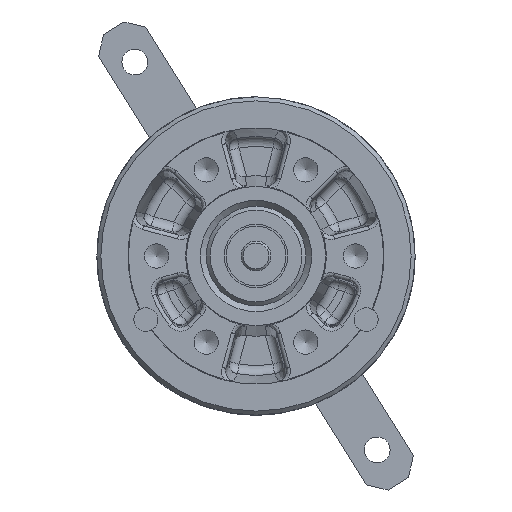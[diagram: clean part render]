
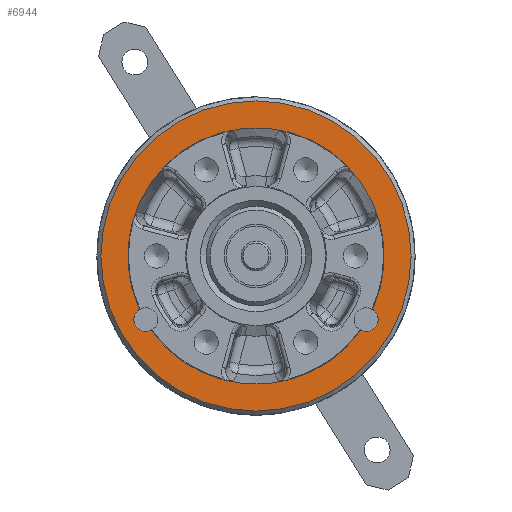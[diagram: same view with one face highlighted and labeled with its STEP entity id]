
A CAD part, left-side view. The second image highlights one B-rep face of the part: STEP entity #6944.
In plain terms, the highlighted planar face has unit normal (-1, 0, 0).
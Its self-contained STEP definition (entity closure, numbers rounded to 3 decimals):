
#359=FACE_BOUND('',#1322,.T.);
#541=PLANE('',#7714);
#905=FACE_OUTER_BOUND('',#1321,.T.);
#1321=EDGE_LOOP('',(#6021));
#1322=EDGE_LOOP('',(#6022,#6023,#6024,#6025));
#2369=CIRCLE('',#7381,0.6);
#2385=CIRCLE('',#7398,6.45);
#2387=CIRCLE('',#7401,0.6);
#2394=CIRCLE('',#7410,7.8);
#2553=CIRCLE('',#7715,6.45);
#2960=VERTEX_POINT('',#11231);
#2961=VERTEX_POINT('',#11236);
#2983=VERTEX_POINT('',#11517);
#2986=VERTEX_POINT('',#11527);
#2991=VERTEX_POINT('',#11546);
#3779=EDGE_CURVE('',#2961,#2960,#2369,.T.);
#3804=EDGE_CURVE('',#2960,#2983,#2385,.T.);
#3807=EDGE_CURVE('',#2983,#2986,#2387,.T.);
#3816=EDGE_CURVE('',#2991,#2991,#2394,.T.);
#4140=EDGE_CURVE('',#2986,#2961,#2553,.T.);
#6021=ORIENTED_EDGE('',*,*,#3816,.T.);
#6022=ORIENTED_EDGE('',*,*,#3779,.T.);
#6023=ORIENTED_EDGE('',*,*,#3804,.T.);
#6024=ORIENTED_EDGE('',*,*,#3807,.T.);
#6025=ORIENTED_EDGE('',*,*,#4140,.T.);
#6944=ADVANCED_FACE('',(#905,#359),#541,.T.);
#7381=AXIS2_PLACEMENT_3D('',#11237,#8892,#8893);
#7398=AXIS2_PLACEMENT_3D('',#11522,#8927,#8928);
#7401=AXIS2_PLACEMENT_3D('',#11532,#8933,#8934);
#7410=AXIS2_PLACEMENT_3D('',#11548,#8953,#8954);
#7714=AXIS2_PLACEMENT_3D('',#14086,#9628,#9629);
#7715=AXIS2_PLACEMENT_3D('',#14087,#9630,#9631);
#8892=DIRECTION('center_axis',(1.,0.,0.));
#8893=DIRECTION('ref_axis',(0.,0.,-1.));
#8927=DIRECTION('center_axis',(1.,0.,0.));
#8928=DIRECTION('ref_axis',(0.,-1.,0.));
#8933=DIRECTION('center_axis',(1.,0.,0.));
#8934=DIRECTION('ref_axis',(0.,0.,-1.));
#8953=DIRECTION('center_axis',(-1.,0.,0.));
#8954=DIRECTION('ref_axis',(0.,0.,1.));
#9628=DIRECTION('center_axis',(-1.,0.,0.));
#9629=DIRECTION('ref_axis',(0.,0.,-1.));
#9630=DIRECTION('center_axis',(1.,0.,0.));
#9631=DIRECTION('ref_axis',(0.,-1.,0.));
#11231=CARTESIAN_POINT('',(0.,5.861,-2.693));
#11236=CARTESIAN_POINT('',(0.,5.261,-3.731));
#11237=CARTESIAN_POINT('Origin',(0.,5.54,-3.2));
#11517=CARTESIAN_POINT('',(0.,-5.861,-2.693));
#11522=CARTESIAN_POINT('Origin',(0.,0.,0.));
#11527=CARTESIAN_POINT('',(0.,-5.261,-3.731));
#11532=CARTESIAN_POINT('Origin',(0.,-5.54,-3.2));
#11546=CARTESIAN_POINT('',(0.,0.,-7.8));
#11548=CARTESIAN_POINT('Origin',(0.,0.,0.));
#14086=CARTESIAN_POINT('Origin',(0.,0.,4.));
#14087=CARTESIAN_POINT('Origin',(0.,0.,0.));
